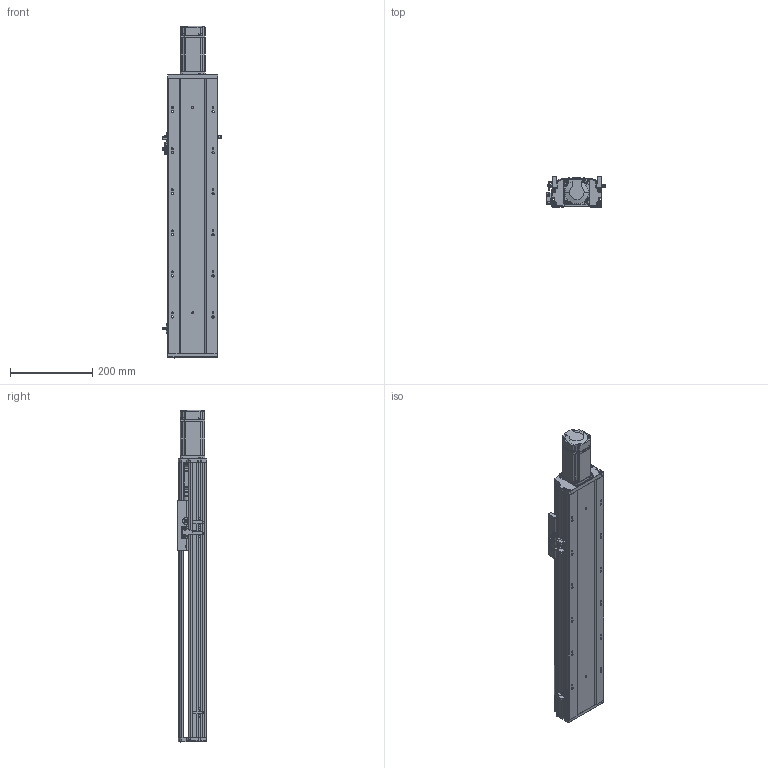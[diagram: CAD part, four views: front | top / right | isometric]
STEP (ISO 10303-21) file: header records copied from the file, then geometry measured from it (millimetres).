
FILE_DESCRIPTION (( 'STEP AP203' ), '1' );
FILE_NAME ('RYK120-L1610-S400-M40-C3-MK.STEP', '2026-03-07T09:59:40', ( '' ), ( '' ), 'SwSTEP 2.0', 'SolidWorks 2016', '' );
FILE_SCHEMA (( 'CONFIG_CONTROL_DESIGN' ));
Length unit declared in the file: millimetre
Products named in the file (17): CB╱T 3762-1996[锥形润滑油嘴1-ZM10×1]_1-ZM10×1; RY120电机端支撑座-压铸加工-M5; 滅袉蝶18-24; 44-49-12-14; 滅袉蝶18-10; RYK120-L1610-S400-M40-C3-MK; RY120-16螺母油路-集中注油组合; RYK120-300-MK-菁釱-啞_400; 侂狟400W侜督萇儂; RY120綴裔啣; 覜茼ん672; 2.10.1.C521-V1.0RY120臏賑輸16蹟譫-啞-JZZY-NRL-L1899; RYK170-薊粣ん芵隴裔啣; RYK120-300-MK-奻裔啣-啞_400; RY120外置感应片(140共用）; 15; RY120QGB-1.8
Assembly tree (21 placements, depth 3):
  RYK120-L1610-S400-M40-C3-MK
    RYK120-300-MK-菁釱-啞_400
    RYK120-300-MK-奻裔啣-啞_400
    RY120綴裔啣
    滅袉蝶18-24  x2
    滅袉蝶18-10  x2
    覜茼ん672  x3
    RY120外置感应片(140共用）
    RY120QGB-1.8
    RY120-16螺母油路-集中注油组合
      2.10.1.C521-V1.0RY120臏賑輸16蹟譫-啞-JZZY-NRL-L1899
      CB╱T 3762-1996[锥形润滑油嘴1-ZM10×1]_1-ZM10×1  x2
    RY120电机端支撑座-压铸加工-M5
    RYK170-薊粣ん芵隴裔啣
    44-49-12-14
    侂狟400W侜督萇儂
      15
Bounding box: 145.7 x 73 x 808.5 mm (x, y, z)
Volume: 2386836.1 mm3; surface area: 793759 mm2
Topology: 23 solids, 23 shells, 2504 faces, 6950 edges, 4457 vertices
Faces by surface type: plane 1191, cylinder 949, cone 237, bspline 127
Entity records: 83308 total; most frequent: CARTESIAN_POINT 23970, ORIENTED_EDGE 12456, DIRECTION 11403, EDGE_CURVE 6228, VERTEX_POINT 4069, AXIS2_PLACEMENT_3D 3894, LINE 3615, VECTOR 3615
